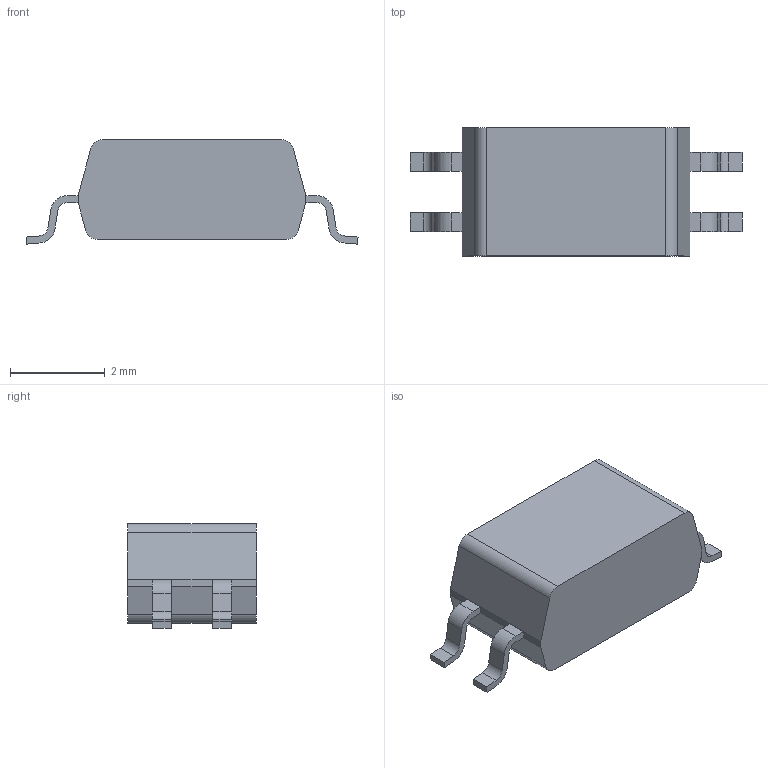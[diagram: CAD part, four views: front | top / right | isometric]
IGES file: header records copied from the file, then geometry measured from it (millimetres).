
Global section: file name: Filename.iges; native system: Open CASCADE 7.7; preprocessor: Open CASCADE IGES processor 7.7; author: SYSTEM; date: 20250915.181308; units: millimetre
Bounding box: 7 x 2.7 x 2.2 mm (x, y, z)
Surface area: 61 mm2 (no closed solid volume)
Topology: 0 solids, 0 shells, 70 faces, 360 edges, 360 vertices
Faces by surface type: plane 50, revolution 20
